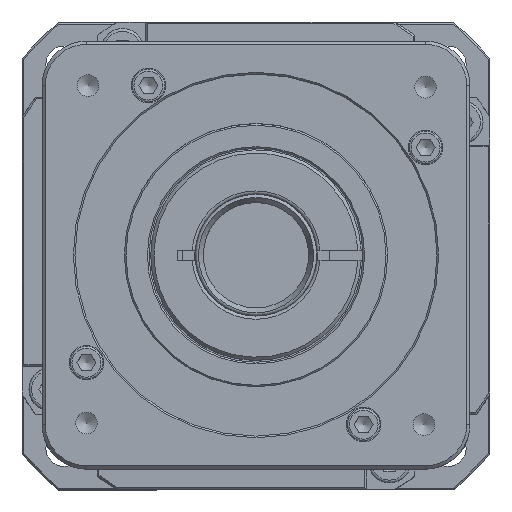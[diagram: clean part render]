
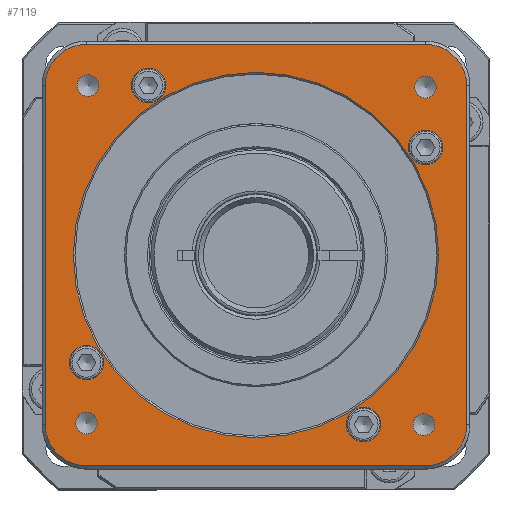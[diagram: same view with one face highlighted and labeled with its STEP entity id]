
A CAD part, top view. The second image highlights one B-rep face of the part: STEP entity #7119.
In plain terms, the highlighted planar face has unit normal (0, 0, 1).
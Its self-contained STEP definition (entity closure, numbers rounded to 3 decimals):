
#6941=CARTESIAN_POINT('',(55.5,0.,42.0));
#6942=VERTEX_POINT('',#6941);
#6943=CARTESIAN_POINT('',(0.0,0.0,42.0));
#6944=DIRECTION('',(0.0,0.0,1.0));
#6945=DIRECTION('',(-1.0,0.0,0.0));
#6946=AXIS2_PLACEMENT_3D('',#6943,#6944,#6945);
#6947=CIRCLE('',#6946,55.5);
#6948=EDGE_CURVE('',#6942,#6942,#6947,.T.);
#6953=CARTESIAN_POINT('',(0.,0.,42.0));
#6954=DIRECTION('',(0.0,0.0,1.0));
#6955=DIRECTION('',(1.0,0.0,0.0));
#6956=AXIS2_PLACEMENT_3D('',#6953,#6954,#6955);
#6957=PLANE('',#6956);
#6958=CARTESIAN_POINT('',(51.5,-64.0,42.0));
#6959=VERTEX_POINT('',#6958);
#6960=CARTESIAN_POINT('',(-51.5,-64.,42.0));
#6961=VERTEX_POINT('',#6960);
#6962=CARTESIAN_POINT('',(51.5,-64.0,42.0));
#6963=DIRECTION('',(-1.0,0.0,0.0));
#6964=VECTOR('',#6963,103.);
#6965=LINE('',#6962,#6964);
#6966=EDGE_CURVE('',#6959,#6961,#6965,.T.);
#6967=ORIENTED_EDGE('',*,*,#6966,.F.);
#6968=CARTESIAN_POINT('',(64.,-51.5,42.0));
#6969=VERTEX_POINT('',#6968);
#6970=CARTESIAN_POINT('',(51.5,-51.5,42.0));
#6971=DIRECTION('',(0.0,0.0,-1.0));
#6972=DIRECTION('',(0.707,-0.707,0.0));
#6973=AXIS2_PLACEMENT_3D('',#6970,#6971,#6972);
#6974=CIRCLE('',#6973,12.5);
#6975=EDGE_CURVE('',#6969,#6959,#6974,.T.);
#6976=ORIENTED_EDGE('',*,*,#6975,.F.);
#6977=CARTESIAN_POINT('',(64.,51.5,42.0));
#6978=VERTEX_POINT('',#6977);
#6979=CARTESIAN_POINT('',(64.,51.5,42.0));
#6980=DIRECTION('',(0.0,-1.0,0.0));
#6981=VECTOR('',#6980,103.);
#6982=LINE('',#6979,#6981);
#6983=EDGE_CURVE('',#6978,#6969,#6982,.T.);
#6984=ORIENTED_EDGE('',*,*,#6983,.F.);
#6985=CARTESIAN_POINT('',(51.5,64.,42.0));
#6986=VERTEX_POINT('',#6985);
#6987=CARTESIAN_POINT('',(51.5,51.5,42.0));
#6988=DIRECTION('',(0.0,0.0,-1.0));
#6989=DIRECTION('',(0.707,0.707,0.0));
#6990=AXIS2_PLACEMENT_3D('',#6987,#6988,#6989);
#6991=CIRCLE('',#6990,12.5);
#6992=EDGE_CURVE('',#6986,#6978,#6991,.T.);
#6993=ORIENTED_EDGE('',*,*,#6992,.F.);
#6994=CARTESIAN_POINT('',(-51.5,64.,42.0));
#6995=VERTEX_POINT('',#6994);
#6996=CARTESIAN_POINT('',(-51.5,64.0,42.0));
#6997=DIRECTION('',(1.0,0.0,0.0));
#6998=VECTOR('',#6997,103.);
#6999=LINE('',#6996,#6998);
#7000=EDGE_CURVE('',#6995,#6986,#6999,.T.);
#7001=ORIENTED_EDGE('',*,*,#7000,.F.);
#7002=CARTESIAN_POINT('',(-64.,51.5,42.0));
#7003=VERTEX_POINT('',#7002);
#7004=CARTESIAN_POINT('',(-51.5,51.5,42.0));
#7005=DIRECTION('',(0.0,0.0,-1.0));
#7006=DIRECTION('',(-0.707,0.707,0.0));
#7007=AXIS2_PLACEMENT_3D('',#7004,#7005,#7006);
#7008=CIRCLE('',#7007,12.5);
#7009=EDGE_CURVE('',#7003,#6995,#7008,.T.);
#7010=ORIENTED_EDGE('',*,*,#7009,.F.);
#7011=CARTESIAN_POINT('',(-64.,-51.5,42.0));
#7012=VERTEX_POINT('',#7011);
#7013=CARTESIAN_POINT('',(-64.,-51.5,42.0));
#7014=DIRECTION('',(0.0,1.0,0.0));
#7015=VECTOR('',#7014,103.0);
#7016=LINE('',#7013,#7015);
#7017=EDGE_CURVE('',#7012,#7003,#7016,.T.);
#7018=ORIENTED_EDGE('',*,*,#7017,.F.);
#7019=CARTESIAN_POINT('',(-51.5,-51.5,42.0));
#7020=DIRECTION('',(0.0,0.0,-1.));
#7021=DIRECTION('',(-0.707,-0.707,0.0));
#7022=AXIS2_PLACEMENT_3D('',#7019,#7020,#7021);
#7023=CIRCLE('',#7022,12.5);
#7024=EDGE_CURVE('',#6961,#7012,#7023,.T.);
#7025=ORIENTED_EDGE('',*,*,#7024,.F.);
#7026=EDGE_LOOP('',(#6967,#6976,#6984,#6993,#7001,#7010,#7018,#7025));
#7027=FACE_OUTER_BOUND('',#7026,.T.);
#7028=CARTESIAN_POINT('',(51.504,27.435,42.0));
#7029=VERTEX_POINT('',#7028);
#7030=CARTESIAN_POINT('',(51.504,32.685,42.0));
#7031=DIRECTION('',(0.0,0.0,-1.0));
#7032=DIRECTION('',(0.0,-1.0,0.0));
#7033=AXIS2_PLACEMENT_3D('',#7030,#7031,#7032);
#7034=CIRCLE('',#7033,5.25);
#7035=EDGE_CURVE('',#7029,#7029,#7034,.T.);
#7036=ORIENTED_EDGE('',*,*,#7035,.T.);
#7037=EDGE_LOOP('',(#7036));
#7038=FACE_BOUND('',#7037,.T.);
#7039=CARTESIAN_POINT('',(27.435,-51.504,42.0));
#7040=VERTEX_POINT('',#7039);
#7041=CARTESIAN_POINT('',(32.685,-51.504,42.0));
#7042=DIRECTION('',(0.0,0.0,-1.0));
#7043=DIRECTION('',(-1.0,0.0,0.0));
#7044=AXIS2_PLACEMENT_3D('',#7041,#7042,#7043);
#7045=CIRCLE('',#7044,5.25);
#7046=EDGE_CURVE('',#7040,#7040,#7045,.T.);
#7047=ORIENTED_EDGE('',*,*,#7046,.T.);
#7048=EDGE_LOOP('',(#7047));
#7049=FACE_BOUND('',#7048,.T.);
#7050=CARTESIAN_POINT('',(-51.504,-27.435,42.0));
#7051=VERTEX_POINT('',#7050);
#7052=CARTESIAN_POINT('',(-51.504,-32.685,42.0));
#7053=DIRECTION('',(0.0,0.0,-1.0));
#7054=DIRECTION('',(0.0,1.0,0.0));
#7055=AXIS2_PLACEMENT_3D('',#7052,#7053,#7054);
#7056=CIRCLE('',#7055,5.25);
#7057=EDGE_CURVE('',#7051,#7051,#7056,.T.);
#7058=ORIENTED_EDGE('',*,*,#7057,.T.);
#7059=EDGE_LOOP('',(#7058));
#7060=FACE_BOUND('',#7059,.T.);
#7061=CARTESIAN_POINT('',(-27.435,51.504,42.0));
#7062=VERTEX_POINT('',#7061);
#7063=CARTESIAN_POINT('',(-32.685,51.504,42.0));
#7064=DIRECTION('',(0.0,0.0,-1.0));
#7065=DIRECTION('',(1.0,0.0,0.0));
#7066=AXIS2_PLACEMENT_3D('',#7063,#7064,#7065);
#7067=CIRCLE('',#7066,5.25);
#7068=EDGE_CURVE('',#7062,#7062,#7067,.T.);
#7069=ORIENTED_EDGE('',*,*,#7068,.T.);
#7070=EDGE_LOOP('',(#7069));
#7071=FACE_BOUND('',#7070,.T.);
#7072=CARTESIAN_POINT('',(51.029,-54.823,42.0));
#7073=VERTEX_POINT('',#7072);
#7074=CARTESIAN_POINT('',(51.029,-51.5,42.0));
#7075=DIRECTION('',(0.0,0.0,-1.0));
#7076=DIRECTION('',(0.0,-1.0,0.0));
#7077=AXIS2_PLACEMENT_3D('',#7074,#7075,#7076);
#7078=CIRCLE('',#7077,3.324);
#7079=EDGE_CURVE('',#7073,#7073,#7078,.T.);
#7080=ORIENTED_EDGE('',*,*,#7079,.T.);
#7081=EDGE_LOOP('',(#7080));
#7082=FACE_BOUND('',#7081,.T.);
#7083=CARTESIAN_POINT('',(-54.823,-51.029,42.0));
#7084=VERTEX_POINT('',#7083);
#7085=CARTESIAN_POINT('',(-51.5,-51.029,42.0));
#7086=DIRECTION('',(0.0,0.0,-1.0));
#7087=DIRECTION('',(-1.0,0.0,0.0));
#7088=AXIS2_PLACEMENT_3D('',#7085,#7086,#7087);
#7089=CIRCLE('',#7088,3.324);
#7090=EDGE_CURVE('',#7084,#7084,#7089,.T.);
#7091=ORIENTED_EDGE('',*,*,#7090,.T.);
#7092=EDGE_LOOP('',(#7091));
#7093=FACE_BOUND('',#7092,.T.);
#7094=CARTESIAN_POINT('',(-51.029,54.823,42.0));
#7095=VERTEX_POINT('',#7094);
#7096=CARTESIAN_POINT('',(-51.029,51.5,42.0));
#7097=DIRECTION('',(0.0,0.0,-1.0));
#7098=DIRECTION('',(0.0,1.0,0.0));
#7099=AXIS2_PLACEMENT_3D('',#7096,#7097,#7098);
#7100=CIRCLE('',#7099,3.324);
#7101=EDGE_CURVE('',#7095,#7095,#7100,.T.);
#7102=ORIENTED_EDGE('',*,*,#7101,.T.);
#7103=EDGE_LOOP('',(#7102));
#7104=FACE_BOUND('',#7103,.T.);
#7105=CARTESIAN_POINT('',(54.823,51.029,42.0));
#7106=VERTEX_POINT('',#7105);
#7107=CARTESIAN_POINT('',(51.5,51.029,42.0));
#7108=DIRECTION('',(0.0,0.0,-1.0));
#7109=DIRECTION('',(1.0,0.0,0.0));
#7110=AXIS2_PLACEMENT_3D('',#7107,#7108,#7109);
#7111=CIRCLE('',#7110,3.324);
#7112=EDGE_CURVE('',#7106,#7106,#7111,.T.);
#7113=ORIENTED_EDGE('',*,*,#7112,.T.);
#7114=EDGE_LOOP('',(#7113));
#7115=FACE_BOUND('',#7114,.T.);
#7116=ORIENTED_EDGE('',*,*,#6948,.F.);
#7117=EDGE_LOOP('',(#7116));
#7118=FACE_BOUND('',#7117,.T.);
#7119=ADVANCED_FACE('',(#7027,#7038,#7049,#7060,#7071,#7082,#7093,#7104,#7115,#7118),#6957,.T.);
